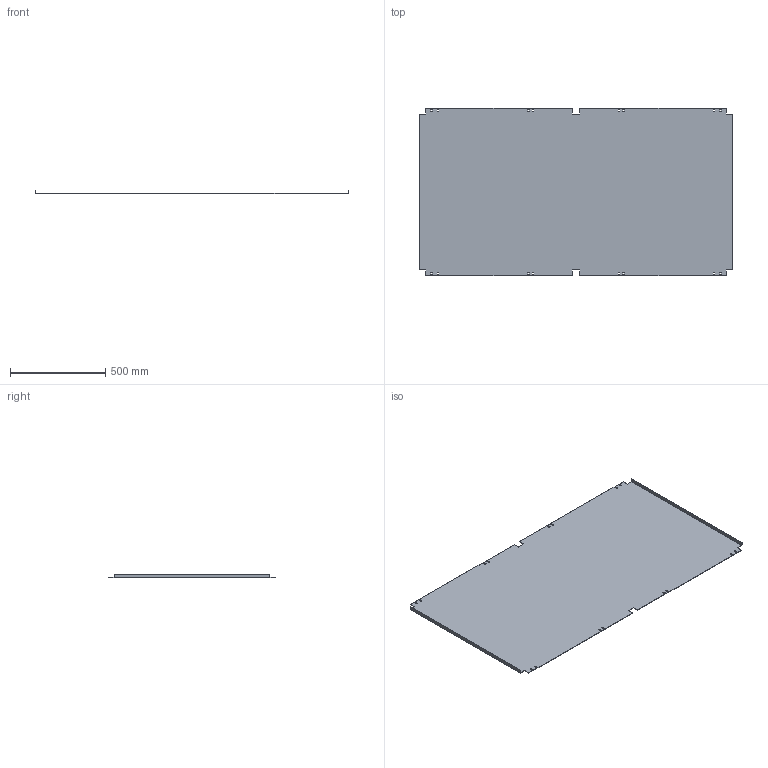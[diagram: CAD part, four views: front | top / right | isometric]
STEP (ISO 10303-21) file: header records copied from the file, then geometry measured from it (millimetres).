
FILE_DESCRIPTION(('Open CASCADE Model'),'2;1');
FILE_NAME('Open CASCADE Shape Model','2025-02-13T17:36:48',('Author'),( 'Open CASCADE'),'Open CASCADE STEP processor 7.8','Open CASCADE 7.8' ,'Unknown');
FILE_SCHEMA(('AUTOMOTIVE_DESIGN { 1 0 10303 214 1 1 1 1 }'));
Length unit declared in the file: millimetre
Products named in the file (1): Solid1
Bounding box: 1650 x 880 x 20 mm (x, y, z)
Volume: 3678495.1 mm3; surface area: 2957352.8 mm2
Topology: 1 solids, 1 shells, 102 faces, 284 edges, 184 vertices
Faces by surface type: plane 66, cylinder 36
Entity records: 3326 total; most frequent: CARTESIAN_POINT 571, ORIENTED_EDGE 568, DIRECTION 562, EDGE_CURVE 284, LINE 212, VECTOR 212, VERTEX_POINT 184, AXIS2_PLACEMENT_3D 175
